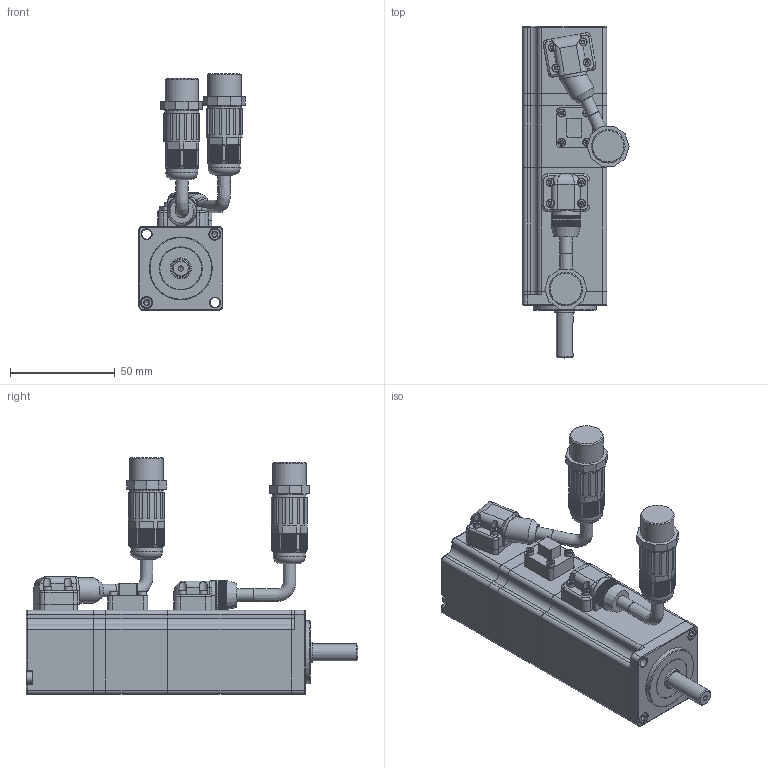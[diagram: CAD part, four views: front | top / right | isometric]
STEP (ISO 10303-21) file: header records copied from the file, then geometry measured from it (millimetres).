
FILE_DESCRIPTION(/* description */ (''),/* implementation_level */ '2;1');
FILE_NAME(/* name */ '40SY-M00330S1-Z.stp',/* time_stamp */ '2023-10-28T15:40:37+08:00',/* author */ (''),/* organization */ (''),/* preprocessor_version */ 'ST-DEVELOPER v18.1',/* originating_system */ 'SIEMENS PLM Software NX 2000',/* authorisation */ '');
FILE_SCHEMA (('AUTOMOTIVE_DESIGN { 1 0 10303 214 3 1 1 1 }'));
Products named in the file (1): 40S1电机外形图
Bounding box: 50.7 x 158.2 x 112.82 mm (x, y, z)
Volume: 237990.3 mm3; surface area: 58771.1 mm2
Topology: 32 solids, 32 shells, 2514 faces, 6553 edges, 4141 vertices
Faces by surface type: plane 1585, cylinder 498, bspline 224, cone 148, torus 55, sphere 4
Full cylindrical faces by diameter (mm): 1.6 x4, 1.886 x12, 2 x12, 2.5 x4, 2.874 x4, 3 x4, 3.05 x2, 3.5 x2, 3.8 x12, 4.6 x2, 5.5 x4, 5.8 x2, 6 x2, 6.5 x1, 8 x1, 9.6 x1, 9.9 x1, 10 x1, 12 x1, 13 x3, 15.3 x2, 15.6 x2, 16 x2, 16.1 x2, 17 x1, 17.3 x2, 20 x2, 30 x1
Entity records: 81531 total; most frequent: CARTESIAN_POINT 22644, ORIENTED_EDGE 12642, DIRECTION 11345, EDGE_CURVE 6321, VERTEX_POINT 4108, AXIS2_PLACEMENT_3D 3909, LINE 3527, VECTOR 3527
